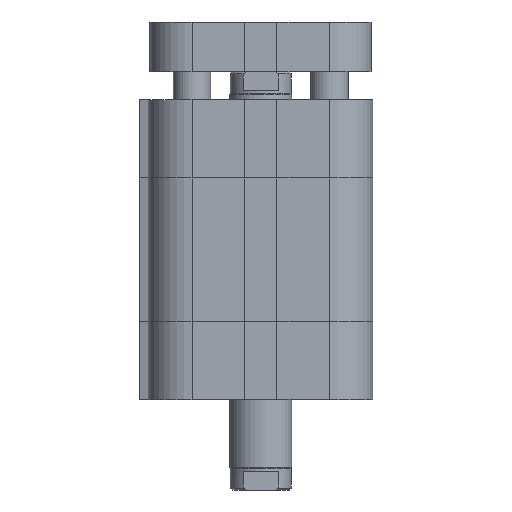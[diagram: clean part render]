
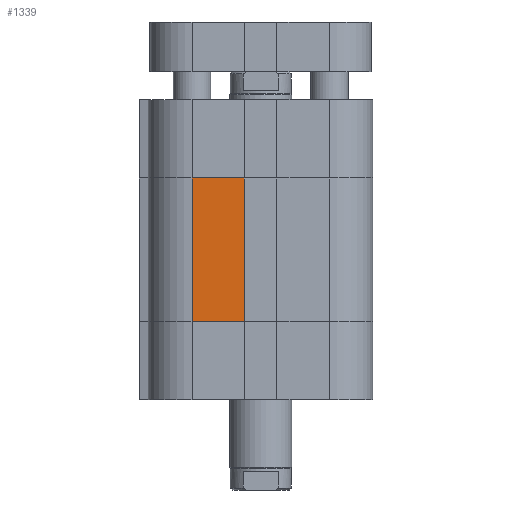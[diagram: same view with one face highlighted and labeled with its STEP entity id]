
A CAD part, left-side view. The second image highlights one B-rep face of the part: STEP entity #1339.
In plain terms, the highlighted planar face has unit normal (-1, 0, 0).
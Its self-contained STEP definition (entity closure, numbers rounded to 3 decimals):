
#1250=CARTESIAN_POINT('',(-18.,11.0,12.5));
#1251=VERTEX_POINT('',#1250);
#1259=CARTESIAN_POINT('',(-18.,11.0,35.5));
#1260=VERTEX_POINT('',#1259);
#1261=CARTESIAN_POINT('',(-18.,11.0,12.5));
#1262=DIRECTION('',(0.0,0.0,1.0));
#1263=VECTOR('',#1262,23.);
#1264=LINE('',#1261,#1263);
#1265=EDGE_CURVE('',#1251,#1260,#1264,.T.);
#1309=CARTESIAN_POINT('',(-18.0,2.6,0.0));
#1310=DIRECTION('',(-1.0,0.0,0.0));
#1311=DIRECTION('',(0.0,0.0,1.0));
#1312=AXIS2_PLACEMENT_3D('',#1309,#1310,#1311);
#1313=PLANE('',#1312);
#1314=CARTESIAN_POINT('',(-18.0,2.6,12.5));
#1315=VERTEX_POINT('',#1314);
#1316=CARTESIAN_POINT('',(-18.,11.0,12.5));
#1317=DIRECTION('',(0.0,-1.0,0.0));
#1318=VECTOR('',#1317,8.4);
#1319=LINE('',#1316,#1318);
#1320=EDGE_CURVE('',#1251,#1315,#1319,.T.);
#1321=ORIENTED_EDGE('',*,*,#1320,.T.);
#1322=CARTESIAN_POINT('',(-18.0,2.6,35.5));
#1323=VERTEX_POINT('',#1322);
#1324=CARTESIAN_POINT('',(-18.0,2.6,12.5));
#1325=DIRECTION('',(0.0,0.0,1.0));
#1326=VECTOR('',#1325,23.);
#1327=LINE('',#1324,#1326);
#1328=EDGE_CURVE('',#1315,#1323,#1327,.T.);
#1329=ORIENTED_EDGE('',*,*,#1328,.T.);
#1330=CARTESIAN_POINT('',(-18.,11.0,35.5));
#1331=DIRECTION('',(0.0,-1.0,0.0));
#1332=VECTOR('',#1331,8.4);
#1333=LINE('',#1330,#1332);
#1334=EDGE_CURVE('',#1260,#1323,#1333,.T.);
#1335=ORIENTED_EDGE('',*,*,#1334,.F.);
#1336=ORIENTED_EDGE('',*,*,#1265,.F.);
#1337=EDGE_LOOP('',(#1321,#1329,#1335,#1336));
#1338=FACE_OUTER_BOUND('',#1337,.T.);
#1339=ADVANCED_FACE('',(#1338),#1313,.T.);
